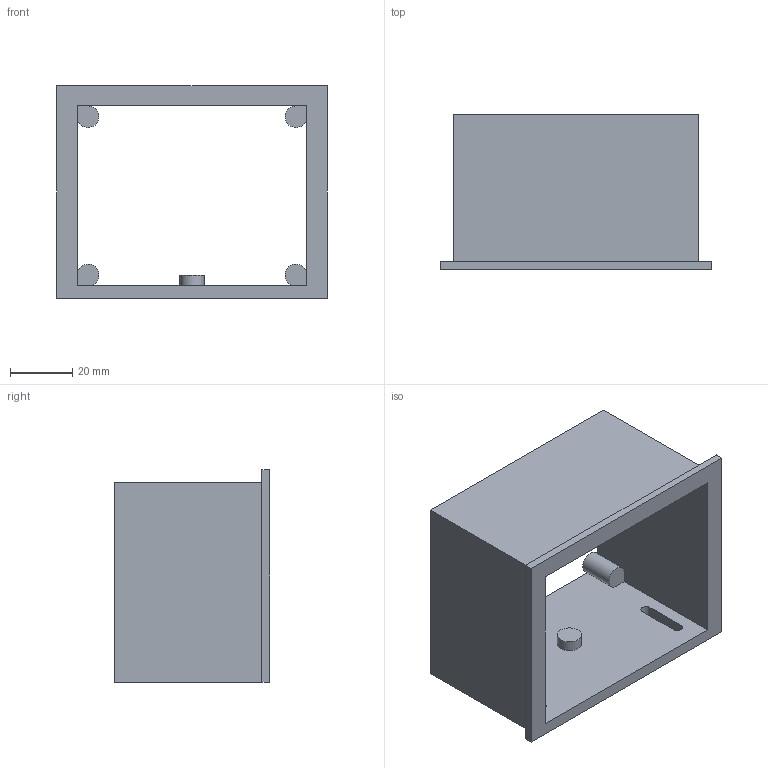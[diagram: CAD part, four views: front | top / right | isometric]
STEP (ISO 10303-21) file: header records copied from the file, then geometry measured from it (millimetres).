
FILE_DESCRIPTION(('Open CASCADE Model'),'2;1');
FILE_NAME('Open CASCADE Shape Model','2026-10-05T16:07:19',('Author'),( 'Open CASCADE'),'Open CASCADE STEP processor 7.9','Open CASCADE 7.9' ,'Unknown');
FILE_SCHEMA(('AUTOMOTIVE_DESIGN { 1 0 10303 214 1 1 1 1 }'));
Length unit declared in the file: millimetre
Products named in the file (1): Open CASCADE STEP translator 7.9 3
Bounding box: 87 x 50 x 68.5 mm (x, y, z)
Volume: 43721.4 mm3; surface area: 32273.8 mm2
Topology: 1 solids, 1 shells, 48 faces, 120 edges, 80 vertices
Faces by surface type: plane 34, cylinder 14
Full cylindrical faces by diameter (mm): 2.6 x4, 3.4 x1, 7.8 x1
Entity records: 2975 total; most frequent: CARTESIAN_POINT 577, DIRECTION 423, LINE 246, VECTOR 246, ORIENTED_EDGE 240, PCURVE 240, DEFINITIONAL_REPRESENTATION 240, EDGE_CURVE 120
